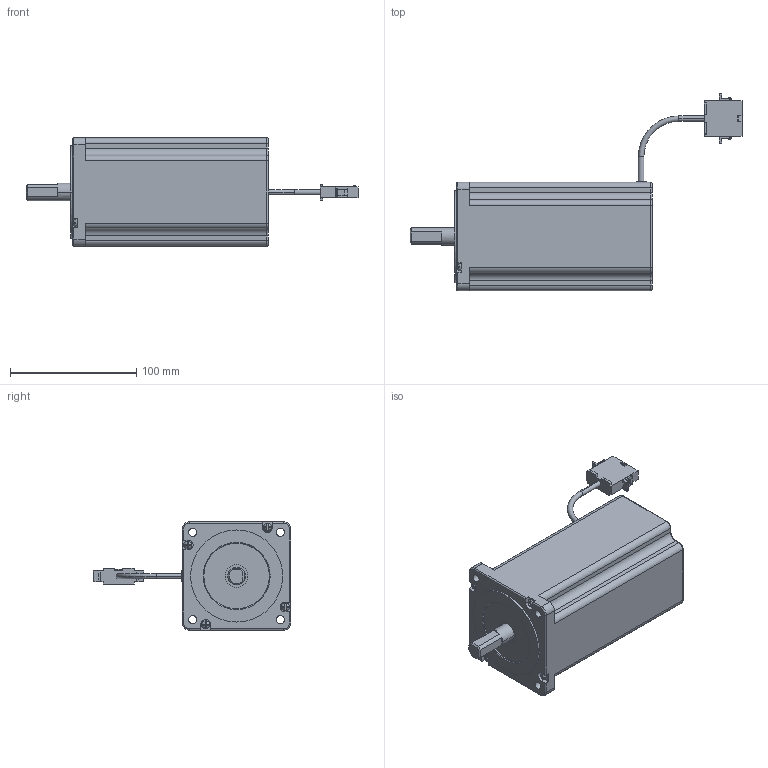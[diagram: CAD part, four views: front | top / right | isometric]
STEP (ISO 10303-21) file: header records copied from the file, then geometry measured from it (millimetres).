
FILE_DESCRIPTION (( 'STEP AP203' ), '1' );
FILE_NAME ('P21-MO-086-03-R00.STEP', '2015-06-30T08:45:09', ( '' ), ( '' ), 'SwSTEP 2.0', 'SolidWorks 2013', '' );
FILE_SCHEMA (( 'CONFIG_CONTROL_DESIGN' ));
Length unit declared in the file: millimetre
Products named in the file (3): M21-MO-086-03-R00; Power Cable 86; P21-MO-086-03-R00
Assembly tree (2 placements, depth 2):
  P21-MO-086-03-R00
    M21-MO-086-03-R00
    Power Cable 86
Bounding box: 263.38 x 156.75 x 86 mm (x, y, z)
Volume: 1047154.7 mm3; surface area: 73334.4 mm2
Topology: 2 solids, 2 shells, 306 faces, 817 edges, 526 vertices
Faces by surface type: plane 194, cylinder 86, torus 14, bspline 8, cone 4
Entity records: 10114 total; most frequent: CARTESIAN_POINT 2075, DIRECTION 1627, ORIENTED_EDGE 1618, EDGE_CURVE 809, AXIS2_PLACEMENT_3D 551, VERTEX_POINT 526, VECTOR 525, LINE 525
